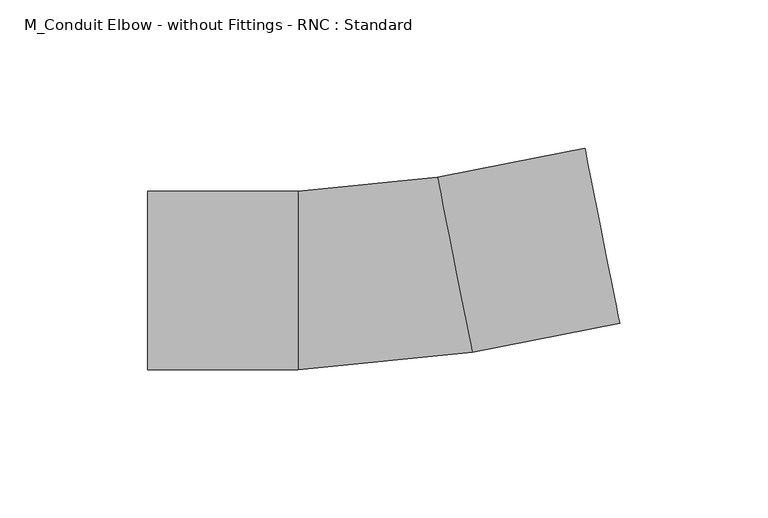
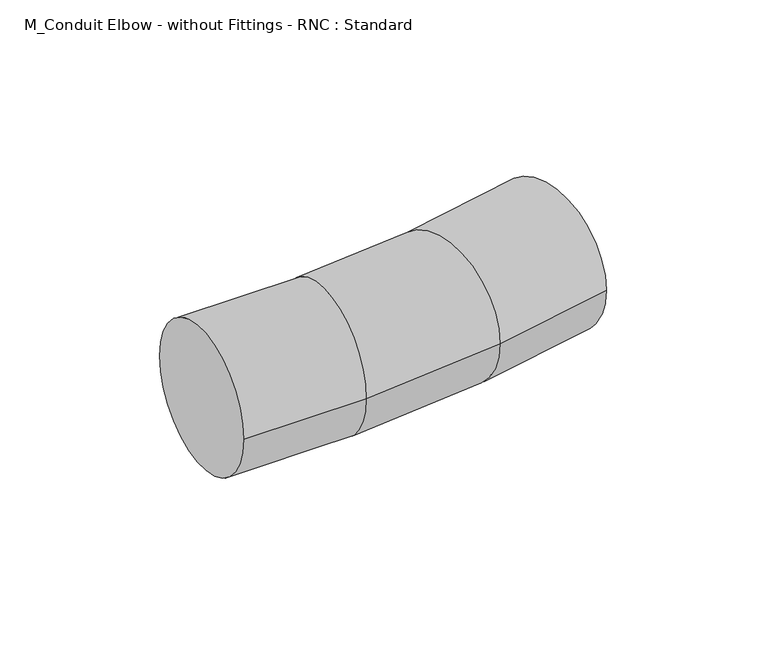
"""IFC4 building model written with IfcOpenShell, lengths in millimetres: cable carrier fitting geometry, M_Conduit Elbow - without Fittings - RNC : Standard."""

import ifcopenshell
import ifcopenshell.guid

model = None  # the IFC model being written
_history = None  # IfcOwnerHistory: only IFC2X3 demands one
_inside = {}  # id of a spatial element -> (the spatial element, [elements in it])
_under = {}  # id of a project, library or spatial element -> (it, [spatial elements below it])
_declared = {}  # id of a project -> (the project, [libraries it declares])
_typed = {}  # id of a type object -> (the type object, [elements of that type])
_made_of = {}  # id of a material, layer set ... -> (it, [elements and type objects made of it])


def new_model(schema):
    """Start an empty IFC model of exactly this schema.

    Asked for "IFC4X3", IfcOpenShell would pick the latest addendum, in which some entities
    have other attributes; the version numbers below select the first issue.
    IFC2X3 requires an IfcOwnerHistory on every rooted entity: one is made here for all.
    """
    global model, _history
    if schema == "IFC4X3":
        model = ifcopenshell.file(schema_version=(4, 3, 0, 0))
    else:
        model = ifcopenshell.file(schema=schema)
    _inside.clear()
    _under.clear()
    _declared.clear()
    _typed.clear()
    _made_of.clear()
    _history = None
    if model.schema == "IFC2X3":
        org = make("IfcOrganization", Name="unknown")
        user = make(
            "IfcPersonAndOrganization",
            ThePerson=make("IfcPerson", FamilyName="unknown"),
            TheOrganization=org,
        )
        app = make(
            "IfcApplication",
            ApplicationDeveloper=org,
            Version="unknown",
            ApplicationFullName="unknown",
            ApplicationIdentifier="unknown",
        )
        _history = make(
            "IfcOwnerHistory",
            OwningUser=user,
            OwningApplication=app,
            ChangeAction="ADDED",
            CreationDate=0,
        )
    return model


def make(cls, **values):
    """One entity of the class cls with the attributes given. An attribute that is None is left unset."""
    return model.create_entity(
        cls, **{name: value for name, value in values.items() if value is not None}
    )


def rooted(cls, **values):
    """An entity with a GlobalId (a new one), such as an element, a storey or a relation."""
    return make(cls, GlobalId=ifcopenshell.guid.new(), OwnerHistory=_history, **values)


def si_unit(unit_type, name, prefix=None):
    """IfcSIUnit, for example si_unit("LENGTHUNIT", "METRE", prefix="MILLI")."""
    return make("IfcSIUnit", UnitType=unit_type, Prefix=prefix, Name=name)


def assignment(units):
    """IfcUnitAssignment: the units of a project."""
    return None if units is None else make("IfcUnitAssignment", Units=units)


def point(xyz):
    """IfcCartesianPoint."""
    return None if xyz is None else make("IfcCartesianPoint", Coordinates=xyz)


def direction(xyz):
    """IfcDirection."""
    return None if xyz is None else make("IfcDirection", DirectionRatios=xyz)


def frame(location, z_axis=None, x_axis=None):
    """IfcAxis2Placement3D, a coordinate frame: its origin and axes. An axis left out is left unset."""
    return make(
        "IfcAxis2Placement3D",
        Location=point(location),
        Axis=direction(z_axis),
        RefDirection=direction(x_axis),
    )


def origin():
    """The frame at (0, 0, 0) with its axes left unset."""
    return frame((0.0, 0.0, 0.0))


def place(relative_to, where):
    """IfcLocalPlacement: puts the frame where relative to a parent placement (None: the world)."""
    return make(
        "IfcLocalPlacement", PlacementRelTo=relative_to, RelativePlacement=where
    )


def context(
    kind, dimensions, precision=None, world=None, true_north=None, identifier=None
):
    """IfcGeometricRepresentationContext, for example the 3D "Model" context."""
    return make(
        "IfcGeometricRepresentationContext",
        ContextIdentifier=identifier,
        ContextType=kind,
        CoordinateSpaceDimension=dimensions,
        Precision=precision,
        WorldCoordinateSystem=world,
        TrueNorth=true_north,
    )


def project(units=None, contexts=None):
    """IfcProject with its units and contexts."""
    return rooted(
        "IfcProject",
        Name="project",
        RepresentationContexts=contexts,
        UnitsInContext=assignment(units),
    )


def spatial(cls, under=None, at=None, **own):
    """A site, building, storey or space (cls), placed at a placement, below another one or the project."""
    s = rooted(cls, ObjectPlacement=at, **own)
    if under is not None:
        _under.setdefault(under.id(), (under, []))[1].append(s)
    return s


def circle_curve(where, radius):
    """IfcCircle in the frame where."""
    return make("IfcCircle", Position=where, Radius=radius)


def ellipse_curve(where, semi_axis1, semi_axis2):
    """IfcEllipse in the frame where."""
    return make(
        "IfcEllipse", Position=where, SemiAxis1=semi_axis1, SemiAxis2=semi_axis2
    )


def trimmed(basis, trim1, trim2, sense, master):
    """IfcTrimmedCurve: the piece of a basis curve between two trims."""
    return make(
        "IfcTrimmedCurve",
        BasisCurve=basis,
        Trim1=trim1,
        Trim2=trim2,
        SenseAgreement=sense,
        MasterRepresentation=master,
    )


def shape(context_of_items, identifier, shape_type, items):
    """IfcShapeRepresentation: the items that make up one representation, for example the "Body"."""
    return make(
        "IfcShapeRepresentation",
        ContextOfItems=context_of_items,
        RepresentationIdentifier=identifier,
        RepresentationType=shape_type,
        Items=items,
    )


def source(mapping_origin, context_of_items, identifier, shape_type, items):
    """IfcRepresentationMap: a shape defined once, which mapped items show again and again."""
    return make(
        "IfcRepresentationMap",
        MappingOrigin=mapping_origin,
        MappedRepresentation=shape(context_of_items, identifier, shape_type, items),
    )


def transform(
    local_origin,
    x_axis=None,
    y_axis=None,
    z_axis=None,
    scale=None,
    scale2=None,
    scale3=None,
    uniform=True,
):
    """IfcCartesianTransformationOperator3D, or its non-uniform kind. x_axis, y_axis, z_axis: its Axis1, 2, 3."""
    if uniform:
        return make(
            "IfcCartesianTransformationOperator3D",
            Axis1=direction(x_axis),
            Axis2=direction(y_axis),
            LocalOrigin=point(local_origin),
            Scale=scale,
            Axis3=direction(z_axis),
        )
    return make(
        "IfcCartesianTransformationOperator3DnonUniform",
        Axis1=direction(x_axis),
        Axis2=direction(y_axis),
        LocalOrigin=point(local_origin),
        Scale=scale,
        Axis3=direction(z_axis),
        Scale2=scale2,
        Scale3=scale3,
    )


def mapped(mapping_source, mapping_target):
    """IfcMappedItem: shows the shape of a source again, moved by a transform."""
    return make(
        "IfcMappedItem", MappingSource=mapping_source, MappingTarget=mapping_target
    )


def made_of(thing, what):
    """Note that an element or type object is made of a material, layer set ...; save() writes the relation."""
    if what is not None:
        _made_of.setdefault(what.id(), (what, []))[1].append(thing)
    return thing


def element(
    cls,
    number,
    at=None,
    inside=None,
    cuts=None,
    type_object=None,
    material=None,
    context=None,
    identifier="Body",
    shape_type=None,
    held_by="IfcProductDefinitionShape",
    body=None,
    shapes=None,
    **own,
):
    """One element of the class cls, such as IfcWall. Its Tag is "e" and its number.

    at: its placement. inside: the storey or other place that contains it. cuts: it is an
    opening in that element (IfcRelVoidsElement). A single representation is given by context,
    identifier, shape_type and body (its items); several are given by shapes. held_by: the class
    of the entity that holds the representations. save() writes the other relations.
    """
    e = rooted(cls, Tag="e%d" % number, ObjectPlacement=at, **own)
    if body is not None:
        shapes = [shape(context, identifier, shape_type, body)]
    if shapes is not None:
        e.Representation = make(held_by, Representations=shapes)
    if inside is not None:
        _inside.setdefault(inside.id(), (inside, []))[1].append(e)
    if cuts is not None:
        rooted(
            "IfcRelVoidsElement", RelatingBuildingElement=cuts, RelatedOpeningElement=e
        )
    if type_object is not None:
        _typed.setdefault(type_object.id(), (type_object, []))[1].append(e)
    return made_of(e, material)


def aggregate(whole, parts):
    """IfcRelAggregates: a whole, such as a stair, and the parts it consists of."""
    return rooted("IfcRelAggregates", RelatingObject=whole, RelatedObjects=parts)


def save(model, path):
    """Write the relations noted so far, then the file.

    IfcRelAggregates (storeys below a building ...), IfcRelContainedInSpatialStructure (elements
    in a storey), IfcRelDefinesByType, IfcRelAssociatesMaterial and IfcRelDeclares: one each for
    every whole, place, type object, material and project.
    """
    for whole, parts in _under.values():
        aggregate(whole, parts)
    for where, things in _inside.values():
        rooted(
            "IfcRelContainedInSpatialStructure",
            RelatedElements=things,
            RelatingStructure=where,
        )
    for kind, things in _typed.values():
        rooted("IfcRelDefinesByType", RelatedObjects=things, RelatingType=kind)
    for what, things in _made_of.values():
        rooted("IfcRelAssociatesMaterial", RelatedObjects=things, RelatingMaterial=what)
    for by, libraries in _declared.values():
        rooted("IfcRelDeclares", RelatingContext=by, RelatedDefinitions=libraries)
    model.write(path)


def plane_surface(at):
    """IfcPlane: the flat surface through the origin of the frame at, square to its z axis."""
    return make("IfcPlane", Position=at)


def cylinder_surface(at, radius):
    """IfcCylindricalSurface: all points at the distance radius from the z axis of the frame at."""
    return make("IfcCylindricalSurface", Position=at, Radius=radius)


def revolved_surface(curve, axis_point, axis_direction):
    """IfcSurfaceOfRevolution: the curve turned about the line through axis_point along axis_direction."""
    return make(
        "IfcSurfaceOfRevolution",
        SweptCurve=make("IfcArbitraryOpenProfileDef", ProfileType="CURVE", Curve=curve),
        AxisPosition=make("IfcAxis1Placement", Location=point(axis_point), Axis=direction(axis_direction)),
    )


def advanced_brep(points, edges, surfaces, faces):
    """IfcAdvancedBrep: a solid bounded by faces that lie on surfaces and meet in shared edges.

    An edge is (start, end): straight between two places in points (the first is 0);
    or (start, end, curve); or (start, end, curve, False) where it runs against its curve.
    A face is (place in surfaces, loops), or (place, loops, False) where it looks against
    its surface's normal. A loop lists edges by number (the first is 1), with a minus sign
    where the edge is run from its end to its start. The first loop is the outer one.
    """
    corners = [point(p) for p in points]
    vertices = [make("IfcVertexPoint", VertexGeometry=c) for c in corners]
    made = []
    for start, end, *more in edges:
        made.append(
            make(
                "IfcEdgeCurve",
                EdgeStart=vertices[start],
                EdgeEnd=vertices[end],
                EdgeGeometry=more[0] if more else make("IfcPolyline", Points=[corners[start], corners[end]]),
                SameSense=more[1] if len(more) > 1 else True,
            )
        )
    hull = []
    for where, loops, *sense in faces:
        bounds = []
        for j, loop in enumerate(loops):
            ring = [make("IfcOrientedEdge", EdgeElement=made[abs(k) - 1], Orientation=k > 0) for k in loop]
            bounds.append(
                make(
                    "IfcFaceOuterBound" if j == 0 else "IfcFaceBound",
                    Bound=make("IfcEdgeLoop", EdgeList=ring),
                    Orientation=True,
                )
            )
        hull.append(make("IfcAdvancedFace", Bounds=bounds, FaceSurface=surfaces[where], SameSense=sense[0] if sense else True))
    return make("IfcAdvancedBrep", Outer=make("IfcClosedShell", CfsFaces=hull))


def m_conduit_elbow_without_fittings_rnc_standard_8ab30edc(model_context):
    return source(origin(), model_context, "Body", "AdvancedBrep", [
        advanced_brep(
        [(-77.53658, -30.1625, 0.0), (-77.53658, 30.1625, 0.0), (-26.73658, -30.1625, 0.0), (-26.73658, 30.1625, 0.0), (20.338406, 34.7989994, 0.0), (32.1072744, -24.3668637, 0.0), (81.9311592, -14.4562377, 0.0), (70.1622907, 44.7096255, 0.0)],
        [
            (0, 1, circle_curve(frame((-77.53658, 0.0, 0.0), z_axis=(-1.0, 0.0, 0.0), x_axis=(0.0, 1.0, 0.0)), 30.1625)),
            (1, 0, circle_curve(frame((-77.53658, 0.0, 0.0), z_axis=(-1.0, 0.0, 0.0), x_axis=(0.0, 1.0, 0.0)), 30.1625)),
            (0, 2),
            (2, 3, circle_curve(frame((-26.73658, 0.0, 0.0), z_axis=(-1.0, 0.0, 0.0), x_axis=(0.0, 1.0, 0.0)), 30.1625)),
            (3, 1),
            (3, 2, circle_curve(frame((-26.73658, 0.0, 0.0), z_axis=(-1.0, 0.0, 0.0), x_axis=(0.0, 1.0, 0.0)), 30.1625)),
            (4, 3, circle_curve(frame((-26.73658, 271.46, 0.0), z_axis=(0.0, 0.0, -1.0), x_axis=(0.0, -1.0, 0.0)), 241.2975)),
            (2, 5, circle_curve(frame((-26.73658, 271.46, 0.0), z_axis=(0.0, 0.0, 1.0), x_axis=(0.0, -1.0, 0.0)), 301.6225)),
            (5, 4, circle_curve(frame((26.2228402, 5.2160678, 0.0), z_axis=(-0.980785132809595, -0.1950910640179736, 0.0), x_axis=(-0.1950910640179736, 0.980785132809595, 0.0)), 30.1625)),
            (4, 5, circle_curve(frame((26.2228402, 5.2160678, 0.0), z_axis=(-0.980785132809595, -0.19509106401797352, 0.0), x_axis=(-0.19509106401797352, 0.980785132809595, 0.0)), 30.1625)),
            (6, 7, circle_curve(frame((76.0467249, 15.1266939, 0.0), z_axis=(0.9807851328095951, 0.19509106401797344, 0.0), x_axis=(-0.19509106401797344, 0.9807851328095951, 0.0)), 30.1625)),
            (7, 6, circle_curve(frame((76.0467249, 15.1266939, 0.0), z_axis=(0.9807851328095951, 0.19509106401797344, 0.0), x_axis=(-0.19509106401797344, 0.9807851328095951, 0.0)), 30.1625)),
            (5, 6),
            (7, 4),
        ],
        [
            plane_surface(frame((-77.53658, 0.0, 0.0), z_axis=(-1.0, 0.0, 0.0), x_axis=(0.0, 0.0, 1.0))),
            cylinder_surface(frame((-77.53658, 0.0, 0.0), z_axis=(-1.0, 0.0, 0.0), x_axis=(0.0, 1.0, 0.0)), 30.1625),
            revolved_surface(trimmed(ellipse_curve(frame((-26.73658, 0.0, 0.0), z_axis=(-1.0, 0.0, 0.0), x_axis=(0.0, 1.0, 0.0)), 30.1625, 30.1625), [point((-26.73658, -30.1625, 0.0))], [point((-26.73658, 30.1625, 0.0))], True, "CARTESIAN"), (-26.73658, 271.46, 0.0), (0.0, 0.0, 1.0)),
            revolved_surface(trimmed(ellipse_curve(frame((-26.73658, 0.0, 0.0), z_axis=(-1.0, 0.0, 0.0), x_axis=(0.0, 1.0, 0.0)), 30.1625, 30.1625), [point((-26.73658, 30.1625, 0.0))], [point((-26.73658, -30.1625, 0.0))], True, "CARTESIAN"), (-26.73658, 271.46, 0.0), (0.0, 0.0, 1.0)),
            plane_surface(frame((76.0467249, 15.1266939, 0.0), z_axis=(0.9807851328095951, 0.1950910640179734, 0.0), x_axis=(0.0, 0.0, 1.0))),
            cylinder_surface(frame((26.2228402, 5.2160678, 0.0), z_axis=(-0.9807851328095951, -0.19509106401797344, 0.0), x_axis=(-0.19509106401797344, 0.9807851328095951, 0.0)), 30.1625),
        ],
        [
            (0, [[1, 2]]),
            (1, [[-1, 3, 4, 5]]),
            (1, [[-2, -5, 6, -3]]),
            (2, [[7, -4, 8, 9]]),
            (3, [[-8, -6, -7, 10]]),
            (4, [[11, 12]]),
            (5, [[-9, 13, -12, 14]]),
            (5, [[-10, -14, -11, -13]]),
        ],
    ),
    ])


if __name__ == "__main__":
    model = new_model("IFC4")
    model_context = context("Model", 3, world=origin())
    ifc_project = project(units=[si_unit("LENGTHUNIT", "METRE", prefix="MILLI")], contexts=[model_context])
    site = spatial("IfcSite", under=ifc_project)
    building = spatial("IfcBuilding", under=site)
    placement = place(None, origin())
    m_conduit_elbow_without_fittings_rnc_standard_shape = m_conduit_elbow_without_fittings_rnc_standard_8ab30edc(model_context)
    element("IfcCableCarrierFitting", 1, ObjectType="M_Conduit Elbow - without Fittings - RNC : Standard", at=placement, inside=building, context=model_context, shape_type="MappedRepresentation", body=[
        mapped(m_conduit_elbow_without_fittings_rnc_standard_shape, transform((0.0, 0.0, 0.0), x_axis=(1.0, 0.0, 0.0), y_axis=(0.0, 1.0, 0.0), z_axis=(0.0, 0.0, 1.0))),
    ])
    save(model, "model.ifc")
